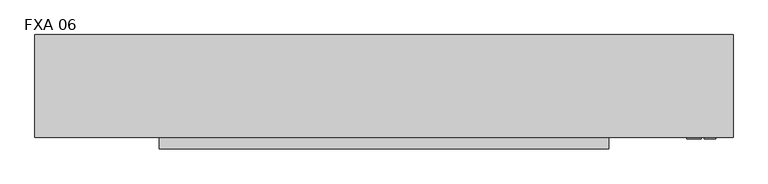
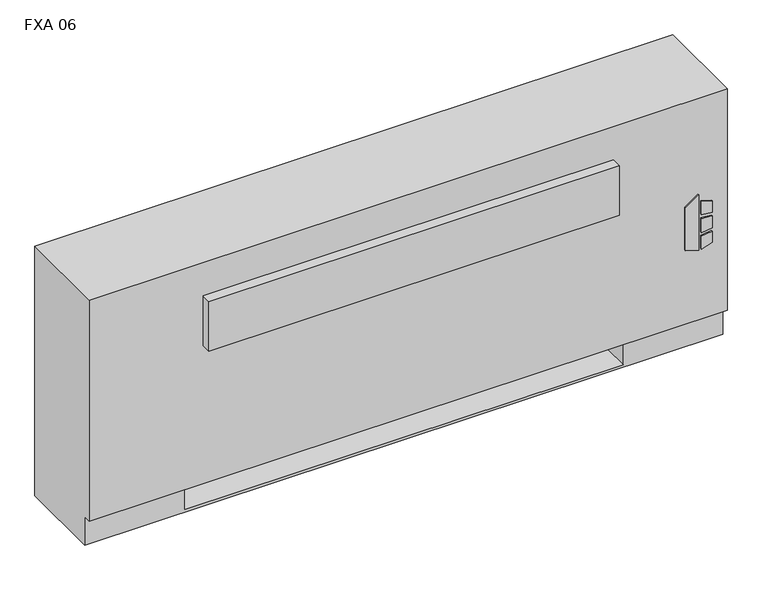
"""IFC4 building model written with IfcOpenShell, lengths in millimetres: proxy geometry, Vertical_Fan_Coil_Unit_-_FXA_-_IEC_-_2-Pipe_FS-FR_RH_2022 : FXA 06."""

from ifc_helpers import new_model, si_unit, point, frame, frame_2d, origin, place, context, project, spatial, polyline, circle_curve, trimmed, segment, composite_curve, outline, extrude, source, transform, mapped, element, save
from ifc_brep_helpers import plane_surface, revolved_surface, advanced_brep


def fxa_06_0686eac1(model_context):
    return source(origin(), model_context, "Body", "SolidModel", [
        extrude(outline(polyline([(263.9480703, 823.9868862), (254.0, 856.1602728), (396.1709244, 856.1602728), (373.1489183, 823.9868862), (263.9480703, 823.9868862)])), frame((0.0, 12.7, 0.0), z_axis=(0.0, 1.0, 0.0), x_axis=(0.0, 0.0, 1.0)), (0.0, 0.0, 1.0), 3.175),
        extrude(outline(polyline([(342.9473557, 862.9186058), (339.7449632, 889.0), (368.9738042, 889.0), (377.0382193, 862.9186058), (342.9473557, 862.9186058)])), frame((0.0, 12.7, 0.0), z_axis=(0.0, 1.0, 0.0), x_axis=(0.0, 0.0, 1.0)), (0.0, 0.0, 1.0), 3.175),
        extrude(outline(polyline([(291.0838288, 889.0), (287.4183279, 862.9186058), (254.0, 862.9186058), (262.6342372, 889.0), (291.0838288, 889.0)])), frame((0.0, 12.7, 0.0), z_axis=(0.0, 1.0, 0.0), x_axis=(0.0, 0.0, 1.0)), (0.0, 0.0, 1.0), 3.175),
        extrude(outline(polyline([(330.3989903, 889.0), (332.6808166, 862.9186058), (296.7432681, 862.9186058), (299.4845331, 889.0), (330.3989903, 889.0)])), frame((0.0, 12.7, 0.0), z_axis=(0.0, 1.0, 0.0), x_axis=(0.0, 0.0, 1.0)), (0.0, 0.0, 1.0), 3.175),
        extrude(outline(polyline([(-501.65, 81.534), (-501.65, 223.266), (-381.0, 223.266), (-381.0, 81.534), (-501.65, 81.534)])), frame((0.0, 0.0, 327.025), z_axis=(0.0, 0.0, 1.0), x_axis=(1.0, 0.0, 0.0)), (0.0, 0.0, 1.0), 260.35),
        extrude(outline(composite_curve([segment(trimmed(circle_curve(frame_2d((749.3, 130.175)), 9.525), [point((739.775, 130.175))], [point((758.825, 130.175))], False, "CARTESIAN"), True, "CONTINUOUS"), segment(trimmed(circle_curve(frame_2d((749.3, 130.175)), 9.525), [point((758.825, 130.175))], [point((739.775, 130.175))], False, "CARTESIAN"), True, "CONTINUOUS")], self_intersect=False)), frame((0.0, 0.0, 101.6), z_axis=(0.0, 0.0, 1.0), x_axis=(1.0, 0.0, 0.0)), (0.0, 0.0, 1.0), 25.4),
        extrude(outline(polyline([(850.9, 196.85), (850.9, 63.5), (685.8, 63.5), (685.8, 196.85), (850.9, 196.85)])), frame((0.0, 0.0, 127.0), z_axis=(0.0, 0.0, 1.0), x_axis=(1.0, 0.0, 0.0)), (0.0, 0.0, 1.0), 50.8),
        extrude(outline(polyline([(650.875, -9.525), (-346.075, -9.525), (-346.075, 15.875), (650.875, 15.875), (650.875, -9.525)])), frame((0.0, 0.0, 428.625), z_axis=(0.0, 0.0, 1.0), x_axis=(1.0, 0.0, 0.0)), (0.0, 0.0, 1.0), 127.0),
        extrude(outline(composite_curve([segment(trimmed(circle_curve(frame_2d((93.1926, 485.5972)), 7.9375), [point((93.1926, 493.5347))], [point((93.1926, 477.6597))], False, "CARTESIAN"), True, "CONTINUOUS"), segment(trimmed(circle_curve(frame_2d((93.1926, 485.5972)), 7.9375), [point((93.1926, 477.6597))], [point((93.1926, 493.5347))], False, "CARTESIAN"), True, "CONTINUOUS")], self_intersect=False)), frame((685.8, 0.0, 0.0), z_axis=(1.0, 0.0, 0.0), x_axis=(0.0, 1.0, 0.0)), (0.0, 0.0, 1.0), 50.8),
        extrude(outline(composite_curve([segment(trimmed(circle_curve(frame_2d((141.3002, 458.9526)), 7.9375), [point((141.3002, 466.8901))], [point((141.3002, 451.0151))], False, "CARTESIAN"), True, "CONTINUOUS"), segment(trimmed(circle_curve(frame_2d((141.3002, 458.9526)), 7.9375), [point((141.3002, 451.0151))], [point((141.3002, 466.8901))], False, "CARTESIAN"), True, "CONTINUOUS")], self_intersect=False)), frame((685.8, 0.0, 0.0), z_axis=(1.0, 0.0, 0.0), x_axis=(0.0, 1.0, 0.0)), (0.0, 0.0, 1.0), 50.8),
        advanced_brep(
        [(927.1, 244.475, 641.35), (-622.3, 244.475, 641.35), (-622.3, 15.875, 641.35), (927.1, 15.875, 641.35), (-622.3, 244.475, 0.0), (927.1, 244.475, 0.0), (927.1, 34.925, 0.0), (-622.3, 34.925, 0.0), (685.8, 244.475, 73.025), (914.4, 244.475, 73.025), (914.4, 244.475, 628.65), (685.8, 244.475, 628.65), (685.8, 244.475, 414.8650565), (714.375, 244.475, 414.8650565), (714.375, 244.475, 385.2349435), (685.8, 244.475, 385.2349435), (685.8, 244.475, 287.3375), (714.375, 244.475, 287.3375), (714.375, 244.475, 258.7625), (685.8, 244.475, 258.7625), (685.8, 244.475, 141.2875), (714.375, 244.475, 141.2875), (714.375, 244.475, 112.7125), (685.8, 244.475, 112.7125), (-381.0, 244.475, 628.65), (-609.6, 244.475, 628.65), (-609.6, 244.475, 73.025), (-381.0, 244.475, 73.025), (-381.0, 244.475, 112.7125), (-409.575, 244.475, 112.7125), (-409.575, 244.475, 141.2875), (-381.0, 244.475, 141.2875), (-381.0, 244.475, 258.7625), (-409.575, 244.475, 258.7625), (-409.575, 244.475, 287.3375), (-381.0, 244.475, 287.3375), (-381.0, 244.475, 385.2349435), (-409.575, 244.475, 385.2349435), (-409.575, 244.475, 414.8650565), (-381.0, 244.475, 414.8650565), (704.0626, 244.475, 127.0), (692.9374, 244.475, 127.0), (704.0626, 244.475, 400.05), (692.9374, 244.475, 400.05), (704.0626, 244.475, 273.05), (692.9374, 244.475, 273.05), (-388.1374, 244.475, 127.0), (-399.2626, 244.475, 127.0), (-388.1374, 244.475, 273.05), (-399.2626, 244.475, 273.05), (-388.1374, 244.475, 400.05), (-399.2626, 244.475, 400.05), (-622.3, 34.925, 73.025), (-622.3, 15.875, 73.025), (927.1, 15.875, 73.025), (927.1, 34.925, 73.025), (-381.0, 34.925, 73.025), (-381.0, 219.075, 73.025), (685.8, 219.075, 73.025), (685.8, 34.925, 73.025), (685.8, 34.925, 6.35), (-381.0, 34.925, 6.35), (685.8, 41.275, 628.65), (914.4, 41.275, 628.65), (914.4, 41.275, 73.025), (685.8, 41.275, 73.025), (-381.0, 41.275, 628.65), (-381.0, 41.275, 73.025), (-609.6, 41.275, 73.025), (-609.6, 41.275, 628.65), (685.8, 219.075, 73.025), (685.8, 238.125, 112.7125), (685.8, 238.125, 141.2875), (685.8, 238.125, 258.7625), (685.8, 238.125, 287.3375), (685.8, 238.125, 385.2349435), (685.8, 238.125, 414.8650565), (-381.0, 219.075, 73.025), (-381.0, 238.125, 414.8650565), (-381.0, 238.125, 385.2349435), (-381.0, 238.125, 287.3375), (-381.0, 238.125, 258.7625), (-381.0, 238.125, 141.2875), (-381.0, 238.125, 112.7125), (-381.0, 219.075, 6.35), (685.8, 219.075, 6.35), (714.375, 238.125, 112.7125), (714.375, 238.125, 141.2875), (692.9374, 238.125, 127.0), (704.0626, 238.125, 127.0), (714.375, 238.125, 258.7625), (714.375, 238.125, 287.3375), (692.9374, 238.125, 273.05), (704.0626, 238.125, 273.05), (714.375, 238.125, 385.2349435), (714.375, 238.125, 414.8650565), (692.9374, 238.125, 400.05), (704.0626, 238.125, 400.05), (-409.575, 238.125, 141.2875), (-409.575, 238.125, 112.7125), (-399.2626, 238.125, 127.0), (-388.1374, 238.125, 127.0), (-409.575, 238.125, 287.3375), (-409.575, 238.125, 258.7625), (-399.2626, 238.125, 273.05), (-388.1374, 238.125, 273.05), (-409.575, 238.125, 414.8650565), (-409.575, 238.125, 385.2349435), (-399.2626, 238.125, 400.05), (-388.1374, 238.125, 400.05)],
        [
            (0, 1),
            (1, 2),
            (2, 3),
            (3, 0),
            (4, 5),
            (5, 6),
            (6, 7),
            (7, 4),
            (0, 5),
            (4, 1),
            (8, 9),
            (9, 10),
            (10, 11),
            (11, 12),
            (12, 13),
            (13, 14),
            (14, 15),
            (15, 16),
            (16, 17),
            (17, 18),
            (18, 19),
            (19, 20),
            (20, 21),
            (21, 22),
            (22, 23),
            (23, 8),
            (24, 25),
            (25, 26),
            (26, 27),
            (27, 28),
            (28, 29),
            (29, 30),
            (30, 31),
            (31, 32),
            (32, 33),
            (33, 34),
            (34, 35),
            (35, 36),
            (36, 37),
            (37, 38),
            (38, 39),
            (39, 24),
            (40, 41, circle_curve(frame((698.5, 244.475, 127.0), z_axis=(0.0, -1.0, 0.0), x_axis=(-1.0, 0.0, 0.0)), 5.5626)),
            (41, 40, circle_curve(frame((698.5, 244.475, 127.0), z_axis=(0.0, -1.0, 0.0), x_axis=(-1.0, 0.0, 0.0)), 5.5626)),
            (42, 43, circle_curve(frame((698.5, 244.475, 400.05), z_axis=(0.0, -1.0, 0.0), x_axis=(-1.0, 0.0, 0.0)), 5.5626)),
            (43, 42, circle_curve(frame((698.5, 244.475, 400.05), z_axis=(0.0, -1.0, 0.0), x_axis=(-1.0, 0.0, 0.0)), 5.5626)),
            (44, 45, circle_curve(frame((698.5, 244.475, 273.05), z_axis=(0.0, -1.0, 0.0), x_axis=(-1.0, 0.0, 0.0)), 5.5626)),
            (45, 44, circle_curve(frame((698.5, 244.475, 273.05), z_axis=(0.0, -1.0, 0.0), x_axis=(-1.0, 0.0, 0.0)), 5.5626)),
            (46, 47, circle_curve(frame((-393.7, 244.475, 127.0), z_axis=(0.0, -1.0, 0.0), x_axis=(-1.0, 0.0, 0.0)), 5.5626)),
            (47, 46, circle_curve(frame((-393.7, 244.475, 127.0), z_axis=(0.0, -1.0, 0.0), x_axis=(-1.0, 0.0, 0.0)), 5.5626)),
            (48, 49, circle_curve(frame((-393.7, 244.475, 273.05), z_axis=(0.0, -1.0, 0.0), x_axis=(-1.0, 0.0, 0.0)), 5.5626)),
            (49, 48, circle_curve(frame((-393.7, 244.475, 273.05), z_axis=(0.0, -1.0, 0.0), x_axis=(-1.0, 0.0, 0.0)), 5.5626)),
            (50, 51, circle_curve(frame((-393.7, 244.475, 400.05), z_axis=(0.0, -1.0, 0.0), x_axis=(-1.0, 0.0, 0.0)), 5.5626)),
            (51, 50, circle_curve(frame((-393.7, 244.475, 400.05), z_axis=(0.0, -1.0, 0.0), x_axis=(-1.0, 0.0, 0.0)), 5.5626)),
            (7, 52),
            (52, 53),
            (53, 2),
            (53, 54),
            (54, 3),
            (54, 55),
            (55, 6),
            (52, 56),
            (56, 57),
            (57, 58),
            (58, 59),
            (59, 55),
            (59, 60),
            (60, 61),
            (61, 56),
            (62, 63),
            (63, 64),
            (64, 65),
            (65, 62),
            (66, 67),
            (67, 68),
            (68, 69),
            (69, 66),
            (65, 70),
            (70, 8),
            (23, 71),
            (71, 72),
            (72, 20),
            (19, 73),
            (73, 74),
            (74, 16),
            (15, 75),
            (75, 76),
            (76, 12),
            (11, 62),
            (64, 9),
            (63, 10),
            (69, 25),
            (24, 66),
            (68, 26),
            (67, 77),
            (77, 27),
            (39, 78),
            (78, 79),
            (79, 36),
            (35, 80),
            (80, 81),
            (81, 32),
            (31, 82),
            (82, 83),
            (83, 28),
            (57, 84),
            (84, 85),
            (85, 58),
            (85, 60),
            (84, 61),
            (71, 86),
            (86, 87),
            (87, 72),
            (88, 89, circle_curve(frame((698.5, 238.125, 127.0), z_axis=(0.0, 1.0, 0.0), x_axis=(-1.0, 0.0, 0.0)), 5.5626)),
            (89, 88, circle_curve(frame((698.5, 238.125, 127.0), z_axis=(0.0, 1.0, 0.0), x_axis=(-1.0, 0.0, 0.0)), 5.5626)),
            (73, 90),
            (90, 91),
            (91, 74),
            (92, 93, circle_curve(frame((698.5, 238.125, 273.05), z_axis=(0.0, 1.0, 0.0), x_axis=(-1.0, 0.0, 0.0)), 5.5626)),
            (93, 92, circle_curve(frame((698.5, 238.125, 273.05), z_axis=(0.0, 1.0, 0.0), x_axis=(-1.0, 0.0, 0.0)), 5.5626)),
            (75, 94),
            (94, 95),
            (95, 76),
            (96, 97, circle_curve(frame((698.5, 238.125, 400.05), z_axis=(0.0, 1.0, 0.0), x_axis=(-1.0, 0.0, 0.0)), 5.5626)),
            (97, 96, circle_curve(frame((698.5, 238.125, 400.05), z_axis=(0.0, 1.0, 0.0), x_axis=(-1.0, 0.0, 0.0)), 5.5626)),
            (98, 99),
            (99, 83),
            (82, 98),
            (100, 101, circle_curve(frame((-393.7, 238.125, 127.0), z_axis=(0.0, 1.0, 0.0), x_axis=(-1.0, 0.0, 0.0)), 5.5626)),
            (101, 100, circle_curve(frame((-393.7, 238.125, 127.0), z_axis=(0.0, 1.0, 0.0), x_axis=(-1.0, 0.0, 0.0)), 5.5626)),
            (102, 103),
            (103, 81),
            (80, 102),
            (104, 105, circle_curve(frame((-393.7, 238.125, 273.05), z_axis=(0.0, 1.0, 0.0), x_axis=(-1.0, 0.0, 0.0)), 5.5626)),
            (105, 104, circle_curve(frame((-393.7, 238.125, 273.05), z_axis=(0.0, 1.0, 0.0), x_axis=(-1.0, 0.0, 0.0)), 5.5626)),
            (106, 107),
            (107, 79),
            (78, 106),
            (108, 109, circle_curve(frame((-393.7, 238.125, 400.05), z_axis=(0.0, 1.0, 0.0), x_axis=(-1.0, 0.0, 0.0)), 5.5626)),
            (109, 108, circle_curve(frame((-393.7, 238.125, 400.05), z_axis=(0.0, 1.0, 0.0), x_axis=(-1.0, 0.0, 0.0)), 5.5626)),
            (87, 21),
            (86, 22),
            (91, 17),
            (90, 18),
            (95, 13),
            (94, 14),
            (30, 98),
            (99, 29),
            (34, 102),
            (103, 33),
            (38, 106),
            (107, 37),
            (88, 41),
            (40, 89),
            (96, 43),
            (42, 97),
            (92, 45),
            (44, 93),
            (100, 47),
            (46, 101),
            (104, 49),
            (48, 105),
            (108, 51),
            (50, 109),
        ],
        [
            plane_surface(frame((-622.3, 244.475, 641.35), z_axis=(0.0, 0.0, 1.0), x_axis=(-1.0, 0.0, 0.0))),
            plane_surface(frame((-622.3, 244.475, 0.0), z_axis=(0.0, 0.0, -1.0), x_axis=(1.0, 0.0, 0.0))),
            plane_surface(frame((927.1, 244.475, 641.35), z_axis=(0.0, 1.0, 0.0), x_axis=(0.0, 0.0, -1.0))),
            plane_surface(frame((-622.3, 244.475, 641.35), z_axis=(-1.0, 0.0, 0.0), x_axis=(0.0, 0.0, -1.0))),
            plane_surface(frame((-622.3, 15.875, 641.35), z_axis=(0.0, -1.0, 0.0), x_axis=(0.0, 0.0, -1.0))),
            plane_surface(frame((927.1, 15.875, 641.35), z_axis=(1.0, 0.0, 0.0), x_axis=(0.0, 0.0, -1.0))),
            plane_surface(frame((-622.3, 15.875, 73.025), z_axis=(0.0, 0.0, -1.0), x_axis=(1.0, 0.0, 0.0))),
            plane_surface(frame((-622.3, 34.925, 73.025), z_axis=(0.0, -1.0, 0.0), x_axis=(1.0, 0.0, 0.0))),
            plane_surface(frame((685.8, 41.275, 628.65), z_axis=(0.0, 1.0, 0.0), x_axis=(0.0, 0.0, -1.0))),
            plane_surface(frame((685.8, 41.275, 628.65), z_axis=(1.0, 0.0, 0.0), x_axis=(0.0, 1.0, 0.0))),
            plane_surface(frame((685.8, 41.275, 73.025), z_axis=(0.0, 0.0, 1.0), x_axis=(0.0, 1.0, 0.0))),
            plane_surface(frame((914.4, 41.275, 73.025), z_axis=(-1.0, 0.0, 0.0), x_axis=(0.0, 1.0, 0.0))),
            plane_surface(frame((914.4, 41.275, 628.65), z_axis=(0.0, 0.0, -1.0), x_axis=(0.0, 1.0, 0.0))),
            plane_surface(frame((-381.0, 41.275, 628.65), z_axis=(0.0, 0.0, -1.0), x_axis=(0.0, 1.0, 0.0))),
            plane_surface(frame((-609.6, 41.275, 628.65), z_axis=(1.0, 0.0, 0.0), x_axis=(0.0, 1.0, 0.0))),
            plane_surface(frame((-609.6, 41.275, 73.025), z_axis=(0.0, 0.0, 1.0), x_axis=(0.0, 1.0, 0.0))),
            plane_surface(frame((-381.0, 41.275, 73.025), z_axis=(-1.0, 0.0, 0.0), x_axis=(0.0, 1.0, 0.0))),
            plane_surface(frame((685.8, 219.075, 73.025), z_axis=(0.0, -1.0, 0.0), x_axis=(0.0, 0.0, -1.0))),
            plane_surface(frame((685.8, 219.075, 73.025), z_axis=(-1.0, 0.0, 0.0), x_axis=(0.0, -1.0, 0.0))),
            plane_surface(frame((685.8, 219.075, 6.35), z_axis=(0.0, 0.0, 1.0), x_axis=(0.0, -1.0, 0.0))),
            plane_surface(frame((-381.0, 219.075, 6.35), z_axis=(1.0, 0.0, 0.0), x_axis=(0.0, -1.0, 0.0))),
            plane_surface(frame((714.375, 238.125, 141.2875), z_axis=(0.0, -1.0, 0.0), x_axis=(-1.0, 0.0, 0.0))),
            plane_surface(frame((685.8, 244.475, 141.2875), z_axis=(0.0, 0.0, 1.0), x_axis=(0.0, -1.0, 0.0))),
            plane_surface(frame((714.375, 244.475, 141.2875), z_axis=(1.0, 0.0, 0.0), x_axis=(0.0, -1.0, 0.0))),
            plane_surface(frame((714.375, 244.475, 112.7125), z_axis=(0.0, 0.0, -1.0), x_axis=(0.0, -1.0, 0.0))),
            plane_surface(frame((685.8, 244.475, 287.3375), z_axis=(0.0, 0.0, 1.0), x_axis=(0.0, -1.0, 0.0))),
            plane_surface(frame((714.375, 244.475, 287.3375), z_axis=(1.0, 0.0, 0.0), x_axis=(0.0, -1.0, 0.0))),
            plane_surface(frame((714.375, 244.475, 258.7625), z_axis=(0.0, 0.0, -1.0), x_axis=(0.0, -1.0, 0.0))),
            plane_surface(frame((685.8, 244.475, 414.8650565), z_axis=(0.0, 0.0, 1.0), x_axis=(0.0, -1.0, 0.0))),
            plane_surface(frame((714.375, 244.475, 414.8650565), z_axis=(1.0, 0.0, 0.0), x_axis=(0.0, -1.0, 0.0))),
            plane_surface(frame((714.375, 244.475, 385.2349435), z_axis=(0.0, 0.0, -1.0), x_axis=(0.0, -1.0, 0.0))),
            plane_surface(frame((-409.575, 244.475, 141.2875), z_axis=(0.0, 0.0, 1.0), x_axis=(0.0, -1.0, 0.0))),
            plane_surface(frame((-381.0, 244.475, 112.7125), z_axis=(0.0, 0.0, -1.0), x_axis=(0.0, -1.0, 0.0))),
            plane_surface(frame((-409.575, 244.475, 112.7125), z_axis=(-1.0, 0.0, 0.0), x_axis=(0.0, -1.0, 0.0))),
            plane_surface(frame((-409.575, 244.475, 287.3375), z_axis=(0.0, 0.0, 1.0), x_axis=(0.0, -1.0, 0.0))),
            plane_surface(frame((-381.0, 244.475, 258.7625), z_axis=(0.0, 0.0, -1.0), x_axis=(0.0, -1.0, 0.0))),
            plane_surface(frame((-409.575, 244.475, 258.7625), z_axis=(-1.0, 0.0, 0.0), x_axis=(0.0, -1.0, 0.0))),
            plane_surface(frame((-409.575, 244.475, 414.8650565), z_axis=(0.0, 0.0, 1.0), x_axis=(0.0, -1.0, 0.0))),
            plane_surface(frame((-381.0, 244.475, 385.2349435), z_axis=(0.0, 0.0, -1.0), x_axis=(0.0, -1.0, 0.0))),
            plane_surface(frame((-409.575, 244.475, 385.2349435), z_axis=(-1.0, 0.0, 0.0), x_axis=(0.0, -1.0, 0.0))),
            revolved_surface(polyline([(692.9374, 238.125, 127.0), (692.9374, 244.475, 127.0)]), (698.5, 244.475, 127.0), (0.0, -1.0, 0.0)),
            revolved_surface(polyline([(692.9374, 238.125, 400.05), (692.9374, 244.475, 400.05)]), (698.5, 244.475, 400.05), (0.0, -1.0, 0.0)),
            revolved_surface(polyline([(692.9374, 238.125, 273.05), (692.9374, 244.475, 273.05)]), (698.5, 244.475, 273.05), (0.0, -1.0, 0.0)),
            revolved_surface(polyline([(-399.26259999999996, 238.125, 127.0), (-399.26259999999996, 244.475, 127.0)]), (-393.7, 244.475, 127.0), (0.0, -1.0, 0.0)),
            revolved_surface(polyline([(-399.26259999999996, 238.125, 273.05), (-399.26259999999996, 244.475, 273.05)]), (-393.7, 244.475, 273.05), (0.0, -1.0, 0.0)),
            revolved_surface(polyline([(-399.26259999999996, 238.125, 400.05), (-399.26259999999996, 244.475, 400.05)]), (-393.7, 244.475, 400.05), (0.0, -1.0, 0.0)),
        ],
        [
            (0, [[1, 2, 3, 4]]),
            (1, [[5, 6, 7, 8]]),
            (2, [[-1, 9, -5, 10], [11, 12, 13, 14, 15, 16, 17, 18, 19, 20, 21, 22, 23, 24, 25, 26], [27, 28, 29, 30, 31, 32, 33, 34, 35, 36, 37, 38, 39, 40, 41, 42], [43, 44], [45, 46], [47, 48], [49, 50], [51, 52], [53, 54]]),
            (3, [[-2, -10, -8, 55, 56, 57]]),
            (4, [[-3, -57, 58, 59]]),
            (5, [[-4, -59, 60, 61, -6, -9]]),
            (6, [[-56, 62, 63, 64, 65, 66, -60, -58]]),
            (7, [[-7, -61, -66, 67, 68, 69, -62, -55]]),
            (8, [[70, 71, 72, 73]]),
            (8, [[74, 75, 76, 77]]),
            (9, [[-73, 78, 79, -26, 80, 81, 82, -22, 83, 84, 85, -18, 86, 87, 88, -14, 89]]),
            (10, [[-72, 90, -11, -79, -78]]),
            (11, [[-71, 91, -12, -90]]),
            (12, [[-70, -89, -13, -91]]),
            (13, [[-77, 92, -27, 93]]),
            (14, [[-76, 94, -28, -92]]),
            (15, [[-75, 95, 96, -29, -94]]),
            (16, [[-74, -93, -42, 97, 98, 99, -38, 100, 101, 102, -34, 103, 104, 105, -30, -96, -95]]),
            (17, [[-64, 106, 107, 108]]),
            (18, [[-108, 109, -67, -65]]),
            (19, [[-107, 110, -68, -109]]),
            (20, [[-106, -63, -69, -110]]),
            (21, [[111, 112, 113, -81], [114, 115]]),
            (21, [[116, 117, 118, -84], [119, 120]]),
            (21, [[121, 122, 123, -87], [124, 125]]),
            (21, [[126, 127, -104, 128], [129, 130]]),
            (21, [[131, 132, -101, 133], [134, 135]]),
            (21, [[136, 137, -98, 138], [139, 140]]),
            (22, [[-113, 141, -23, -82]]),
            (23, [[-112, 142, -24, -141]]),
            (24, [[-111, -80, -25, -142]]),
            (25, [[-118, 143, -19, -85]]),
            (26, [[-117, 144, -20, -143]]),
            (27, [[-116, -83, -21, -144]]),
            (28, [[-123, 145, -15, -88]]),
            (29, [[-122, 146, -16, -145]]),
            (30, [[-121, -86, -17, -146]]),
            (31, [[-128, -103, -33, 147]]),
            (32, [[-127, 148, -31, -105]]),
            (33, [[-126, -147, -32, -148]]),
            (34, [[-133, -100, -37, 149]]),
            (35, [[-132, 150, -35, -102]]),
            (36, [[-131, -149, -36, -150]]),
            (37, [[-138, -97, -41, 151]]),
            (38, [[-137, 152, -39, -99]]),
            (39, [[-136, -151, -40, -152]]),
            (40, [[153, -43, 154, -114]]),
            (40, [[-153, -115, -154, -44]]),
            (41, [[155, -45, 156, -124]]),
            (41, [[-155, -125, -156, -46]]),
            (42, [[157, -47, 158, -119]]),
            (42, [[-157, -120, -158, -48]]),
            (43, [[159, -49, 160, -129]]),
            (43, [[-159, -130, -160, -50]]),
            (44, [[161, -51, 162, -134]]),
            (44, [[-161, -135, -162, -52]]),
            (45, [[163, -53, 164, -139]]),
            (45, [[-163, -140, -164, -54]]),
        ],
    ),
    ])


if __name__ == "__main__":
    model = new_model("IFC4")
    model_context = context("Model", 3, world=origin())
    ifc_project = project(units=[si_unit("LENGTHUNIT", "METRE", prefix="MILLI")], contexts=[model_context])
    site = spatial("IfcSite", under=ifc_project)
    building = spatial("IfcBuilding", under=site)
    placement = place(None, origin())
    fxa_06_shape = fxa_06_0686eac1(model_context)
    element("IfcBuildingElementProxy", 1, Name="Vertical_Fan_Coil_Unit_-_FXA_-_IEC_-_2-Pipe_FS-FR_RH_2022 : FXA 06", ObjectType="Vertical_Fan_Coil_Unit_-_FXA_-_IEC_-_2-Pipe_FS-FR_RH_2022 : FXA 06", at=placement, inside=building, context=model_context, shape_type="MappedRepresentation", body=[
        mapped(fxa_06_shape, transform((0.0, 0.0, 0.0), x_axis=(1.0, 0.0, 0.0), y_axis=(0.0, 1.0, 0.0), z_axis=(0.0, 0.0, 1.0))),
    ])
    save(model, "model.ifc")
